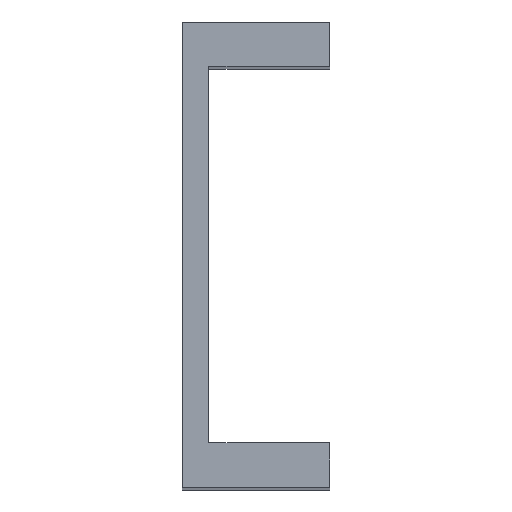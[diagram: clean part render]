
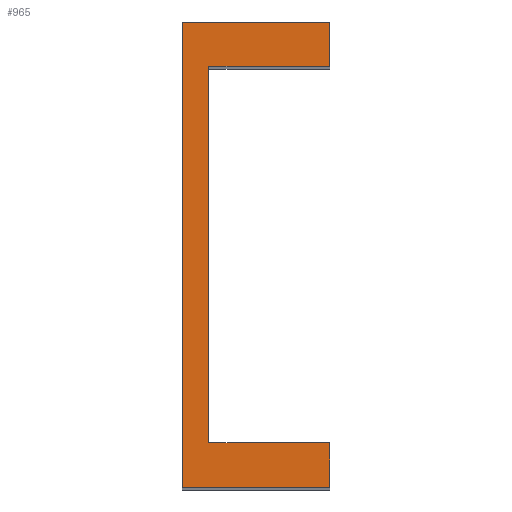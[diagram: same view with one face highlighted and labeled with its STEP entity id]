
A CAD part, top view. The second image highlights one B-rep face of the part: STEP entity #965.
In plain terms, the highlighted planar face has unit normal (0, 0, 1).
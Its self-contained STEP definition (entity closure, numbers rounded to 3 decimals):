
#73 = PLANE('',#74);
#74 = AXIS2_PLACEMENT_3D('',#75,#76,#77);
#75 = CARTESIAN_POINT('',(0.9,0.,56.5));
#76 = DIRECTION('',(1.,0.,-0.));
#77 = DIRECTION('',(0.,1.,0.));
#123 = PLANE('',#124);
#124 = AXIS2_PLACEMENT_3D('',#125,#126,#127);
#125 = CARTESIAN_POINT('',(0.,0.,56.5));
#126 = DIRECTION('',(-1.,0.,0.));
#127 = DIRECTION('',(0.,-1.,0.));
#264 = PLANE('',#265);
#265 = AXIS2_PLACEMENT_3D('',#266,#267,#268);
#266 = CARTESIAN_POINT('',(0.,1.5,56.5));
#267 = DIRECTION('',(0.,1.,-0.));
#268 = DIRECTION('',(-1.,0.,0.));
#289 = VERTEX_POINT('',#290);
#290 = CARTESIAN_POINT('',(0.9,1.5,56.5));
#311 = EDGE_CURVE('',#289,#312,#314,.T.);
#312 = VERTEX_POINT('',#313);
#313 = CARTESIAN_POINT('',(5.,1.5,56.5));
#314 = SURFACE_CURVE('',#315,(#319,#326),.PCURVE_S1.);
#315 = LINE('',#316,#317);
#316 = CARTESIAN_POINT('',(0.,1.5,56.5));
#317 = VECTOR('',#318,1.);
#318 = DIRECTION('',(1.,0.,0.));
#319 = PCURVE('',#264,#320);
#320 = DEFINITIONAL_REPRESENTATION('',(#321),#325);
#321 = LINE('',#322,#323);
#322 = CARTESIAN_POINT('',(0.,0.));
#323 = VECTOR('',#324,1.);
#324 = DIRECTION('',(-1.,0.));
#325 = ( GEOMETRIC_REPRESENTATION_CONTEXT(2) 
PARAMETRIC_REPRESENTATION_CONTEXT() REPRESENTATION_CONTEXT('2D SPACE',''
  ) );
#326 = PCURVE('',#327,#332);
#327 = PLANE('',#328);
#328 = AXIS2_PLACEMENT_3D('',#329,#330,#331);
#329 = CARTESIAN_POINT('',(0.,0.,56.5));
#330 = DIRECTION('',(-0.,0.,1.));
#331 = DIRECTION('',(1.,0.,0.));
#332 = DEFINITIONAL_REPRESENTATION('',(#333),#337);
#333 = LINE('',#334,#335);
#334 = CARTESIAN_POINT('',(0.,1.5));
#335 = VECTOR('',#336,1.);
#336 = DIRECTION('',(1.,0.));
#337 = ( GEOMETRIC_REPRESENTATION_CONTEXT(2) 
PARAMETRIC_REPRESENTATION_CONTEXT() REPRESENTATION_CONTEXT('2D SPACE',''
  ) );
#353 = PLANE('',#354);
#354 = AXIS2_PLACEMENT_3D('',#355,#356,#357);
#355 = CARTESIAN_POINT('',(5.,0.,56.5));
#356 = DIRECTION('',(-1.,0.,0.));
#357 = DIRECTION('',(0.,-1.,0.));
#442 = VERTEX_POINT('',#443);
#443 = CARTESIAN_POINT('',(0.9,14.3,56.5));
#457 = PLANE('',#458);
#458 = AXIS2_PLACEMENT_3D('',#459,#460,#461);
#459 = CARTESIAN_POINT('',(0.,14.3,56.5));
#460 = DIRECTION('',(0.,1.,0.));
#461 = DIRECTION('',(0.,-0.,1.));
#469 = EDGE_CURVE('',#442,#289,#470,.T.);
#470 = SURFACE_CURVE('',#471,(#475,#482),.PCURVE_S1.);
#471 = LINE('',#472,#473);
#472 = CARTESIAN_POINT('',(0.9,0.,56.5));
#473 = VECTOR('',#474,1.);
#474 = DIRECTION('',(0.,-1.,0.));
#475 = PCURVE('',#73,#476);
#476 = DEFINITIONAL_REPRESENTATION('',(#477),#481);
#477 = LINE('',#478,#479);
#478 = CARTESIAN_POINT('',(0.,0.));
#479 = VECTOR('',#480,1.);
#480 = DIRECTION('',(-1.,0.));
#481 = ( GEOMETRIC_REPRESENTATION_CONTEXT(2) 
PARAMETRIC_REPRESENTATION_CONTEXT() REPRESENTATION_CONTEXT('2D SPACE',''
  ) );
#482 = PCURVE('',#327,#483);
#483 = DEFINITIONAL_REPRESENTATION('',(#484),#488);
#484 = LINE('',#485,#486);
#485 = CARTESIAN_POINT('',(0.9,0.));
#486 = VECTOR('',#487,1.);
#487 = DIRECTION('',(0.,-1.));
#488 = ( GEOMETRIC_REPRESENTATION_CONTEXT(2) 
PARAMETRIC_REPRESENTATION_CONTEXT() REPRESENTATION_CONTEXT('2D SPACE',''
  ) );
#518 = VERTEX_POINT('',#519);
#519 = CARTESIAN_POINT('',(5.,14.3,56.5));
#533 = PLANE('',#534);
#534 = AXIS2_PLACEMENT_3D('',#535,#536,#537);
#535 = CARTESIAN_POINT('',(5.,0.,56.5));
#536 = DIRECTION('',(-1.,0.,0.));
#537 = DIRECTION('',(0.,-1.,0.));
#545 = EDGE_CURVE('',#442,#518,#546,.T.);
#546 = SURFACE_CURVE('',#547,(#551,#558),.PCURVE_S1.);
#547 = LINE('',#548,#549);
#548 = CARTESIAN_POINT('',(0.,14.3,56.5));
#549 = VECTOR('',#550,1.);
#550 = DIRECTION('',(1.,0.,0.));
#551 = PCURVE('',#457,#552);
#552 = DEFINITIONAL_REPRESENTATION('',(#553),#557);
#553 = LINE('',#554,#555);
#554 = CARTESIAN_POINT('',(0.,0.));
#555 = VECTOR('',#556,1.);
#556 = DIRECTION('',(0.,1.));
#557 = ( GEOMETRIC_REPRESENTATION_CONTEXT(2) 
PARAMETRIC_REPRESENTATION_CONTEXT() REPRESENTATION_CONTEXT('2D SPACE',''
  ) );
#558 = PCURVE('',#327,#559);
#559 = DEFINITIONAL_REPRESENTATION('',(#560),#564);
#560 = LINE('',#561,#562);
#561 = CARTESIAN_POINT('',(0.,14.3));
#562 = VECTOR('',#563,1.);
#563 = DIRECTION('',(1.,0.));
#564 = ( GEOMETRIC_REPRESENTATION_CONTEXT(2) 
PARAMETRIC_REPRESENTATION_CONTEXT() REPRESENTATION_CONTEXT('2D SPACE',''
  ) );
#594 = VERTEX_POINT('',#595);
#595 = CARTESIAN_POINT('',(5.,15.8,56.5));
#609 = PLANE('',#610);
#610 = AXIS2_PLACEMENT_3D('',#611,#612,#613);
#611 = CARTESIAN_POINT('',(0.,15.8,56.5));
#612 = DIRECTION('',(0.,1.,0.));
#613 = DIRECTION('',(0.,-0.,1.));
#621 = EDGE_CURVE('',#518,#594,#622,.T.);
#622 = SURFACE_CURVE('',#623,(#627,#634),.PCURVE_S1.);
#623 = LINE('',#624,#625);
#624 = CARTESIAN_POINT('',(5.,0.,56.5));
#625 = VECTOR('',#626,1.);
#626 = DIRECTION('',(0.,1.,0.));
#627 = PCURVE('',#533,#628);
#628 = DEFINITIONAL_REPRESENTATION('',(#629),#633);
#629 = LINE('',#630,#631);
#630 = CARTESIAN_POINT('',(0.,0.));
#631 = VECTOR('',#632,1.);
#632 = DIRECTION('',(-1.,0.));
#633 = ( GEOMETRIC_REPRESENTATION_CONTEXT(2) 
PARAMETRIC_REPRESENTATION_CONTEXT() REPRESENTATION_CONTEXT('2D SPACE',''
  ) );
#634 = PCURVE('',#327,#635);
#635 = DEFINITIONAL_REPRESENTATION('',(#636),#640);
#636 = LINE('',#637,#638);
#637 = CARTESIAN_POINT('',(5.,0.));
#638 = VECTOR('',#639,1.);
#639 = DIRECTION('',(0.,1.));
#640 = ( GEOMETRIC_REPRESENTATION_CONTEXT(2) 
PARAMETRIC_REPRESENTATION_CONTEXT() REPRESENTATION_CONTEXT('2D SPACE',''
  ) );
#670 = VERTEX_POINT('',#671);
#671 = CARTESIAN_POINT('',(0.,15.8,56.5));
#692 = EDGE_CURVE('',#670,#594,#693,.T.);
#693 = SURFACE_CURVE('',#694,(#698,#705),.PCURVE_S1.);
#694 = LINE('',#695,#696);
#695 = CARTESIAN_POINT('',(0.,15.8,56.5));
#696 = VECTOR('',#697,1.);
#697 = DIRECTION('',(1.,0.,0.));
#698 = PCURVE('',#609,#699);
#699 = DEFINITIONAL_REPRESENTATION('',(#700),#704);
#700 = LINE('',#701,#702);
#701 = CARTESIAN_POINT('',(0.,0.));
#702 = VECTOR('',#703,1.);
#703 = DIRECTION('',(0.,1.));
#704 = ( GEOMETRIC_REPRESENTATION_CONTEXT(2) 
PARAMETRIC_REPRESENTATION_CONTEXT() REPRESENTATION_CONTEXT('2D SPACE',''
  ) );
#705 = PCURVE('',#327,#706);
#706 = DEFINITIONAL_REPRESENTATION('',(#707),#711);
#707 = LINE('',#708,#709);
#708 = CARTESIAN_POINT('',(0.,15.8));
#709 = VECTOR('',#710,1.);
#710 = DIRECTION('',(1.,0.));
#711 = ( GEOMETRIC_REPRESENTATION_CONTEXT(2) 
PARAMETRIC_REPRESENTATION_CONTEXT() REPRESENTATION_CONTEXT('2D SPACE',''
  ) );
#799 = VERTEX_POINT('',#800);
#800 = CARTESIAN_POINT('',(0.,0.,56.5));
#814 = PLANE('',#815);
#815 = AXIS2_PLACEMENT_3D('',#816,#817,#818);
#816 = CARTESIAN_POINT('',(0.,0.,56.5));
#817 = DIRECTION('',(0.,1.,0.));
#818 = DIRECTION('',(0.,-0.,1.));
#826 = EDGE_CURVE('',#799,#670,#827,.T.);
#827 = SURFACE_CURVE('',#828,(#832,#839),.PCURVE_S1.);
#828 = LINE('',#829,#830);
#829 = CARTESIAN_POINT('',(0.,0.,56.5));
#830 = VECTOR('',#831,1.);
#831 = DIRECTION('',(0.,1.,0.));
#832 = PCURVE('',#123,#833);
#833 = DEFINITIONAL_REPRESENTATION('',(#834),#838);
#834 = LINE('',#835,#836);
#835 = CARTESIAN_POINT('',(0.,0.));
#836 = VECTOR('',#837,1.);
#837 = DIRECTION('',(-1.,0.));
#838 = ( GEOMETRIC_REPRESENTATION_CONTEXT(2) 
PARAMETRIC_REPRESENTATION_CONTEXT() REPRESENTATION_CONTEXT('2D SPACE',''
  ) );
#839 = PCURVE('',#327,#840);
#840 = DEFINITIONAL_REPRESENTATION('',(#841),#845);
#841 = LINE('',#842,#843);
#842 = CARTESIAN_POINT('',(0.,0.));
#843 = VECTOR('',#844,1.);
#844 = DIRECTION('',(0.,1.));
#845 = ( GEOMETRIC_REPRESENTATION_CONTEXT(2) 
PARAMETRIC_REPRESENTATION_CONTEXT() REPRESENTATION_CONTEXT('2D SPACE',''
  ) );
#875 = VERTEX_POINT('',#876);
#876 = CARTESIAN_POINT('',(5.,0.,56.5));
#897 = EDGE_CURVE('',#799,#875,#898,.T.);
#898 = SURFACE_CURVE('',#899,(#903,#910),.PCURVE_S1.);
#899 = LINE('',#900,#901);
#900 = CARTESIAN_POINT('',(0.,0.,56.5));
#901 = VECTOR('',#902,1.);
#902 = DIRECTION('',(1.,0.,0.));
#903 = PCURVE('',#814,#904);
#904 = DEFINITIONAL_REPRESENTATION('',(#905),#909);
#905 = LINE('',#906,#907);
#906 = CARTESIAN_POINT('',(0.,0.));
#907 = VECTOR('',#908,1.);
#908 = DIRECTION('',(0.,1.));
#909 = ( GEOMETRIC_REPRESENTATION_CONTEXT(2) 
PARAMETRIC_REPRESENTATION_CONTEXT() REPRESENTATION_CONTEXT('2D SPACE',''
  ) );
#910 = PCURVE('',#327,#911);
#911 = DEFINITIONAL_REPRESENTATION('',(#912),#916);
#912 = LINE('',#913,#914);
#913 = CARTESIAN_POINT('',(0.,0.));
#914 = VECTOR('',#915,1.);
#915 = DIRECTION('',(1.,0.));
#916 = ( GEOMETRIC_REPRESENTATION_CONTEXT(2) 
PARAMETRIC_REPRESENTATION_CONTEXT() REPRESENTATION_CONTEXT('2D SPACE',''
  ) );
#944 = EDGE_CURVE('',#875,#312,#945,.T.);
#945 = SURFACE_CURVE('',#946,(#950,#957),.PCURVE_S1.);
#946 = LINE('',#947,#948);
#947 = CARTESIAN_POINT('',(5.,0.,56.5));
#948 = VECTOR('',#949,1.);
#949 = DIRECTION('',(0.,1.,0.));
#950 = PCURVE('',#353,#951);
#951 = DEFINITIONAL_REPRESENTATION('',(#952),#956);
#952 = LINE('',#953,#954);
#953 = CARTESIAN_POINT('',(0.,0.));
#954 = VECTOR('',#955,1.);
#955 = DIRECTION('',(-1.,0.));
#956 = ( GEOMETRIC_REPRESENTATION_CONTEXT(2) 
PARAMETRIC_REPRESENTATION_CONTEXT() REPRESENTATION_CONTEXT('2D SPACE',''
  ) );
#957 = PCURVE('',#327,#958);
#958 = DEFINITIONAL_REPRESENTATION('',(#959),#963);
#959 = LINE('',#960,#961);
#960 = CARTESIAN_POINT('',(5.,0.));
#961 = VECTOR('',#962,1.);
#962 = DIRECTION('',(0.,1.));
#963 = ( GEOMETRIC_REPRESENTATION_CONTEXT(2) 
PARAMETRIC_REPRESENTATION_CONTEXT() REPRESENTATION_CONTEXT('2D SPACE',''
  ) );
#965 = ADVANCED_FACE('',(#966),#327,.T.);
#966 = FACE_BOUND('',#967,.T.);
#967 = EDGE_LOOP('',(#968,#969,#970,#971,#972,#973,#974,#975));
#968 = ORIENTED_EDGE('',*,*,#311,.F.);
#969 = ORIENTED_EDGE('',*,*,#469,.F.);
#970 = ORIENTED_EDGE('',*,*,#545,.T.);
#971 = ORIENTED_EDGE('',*,*,#621,.T.);
#972 = ORIENTED_EDGE('',*,*,#692,.F.);
#973 = ORIENTED_EDGE('',*,*,#826,.F.);
#974 = ORIENTED_EDGE('',*,*,#897,.T.);
#975 = ORIENTED_EDGE('',*,*,#944,.T.);
